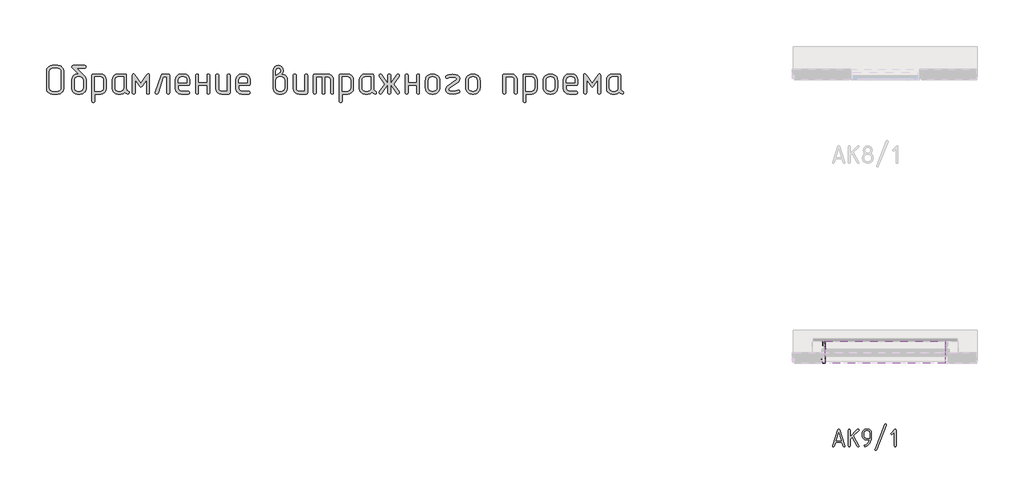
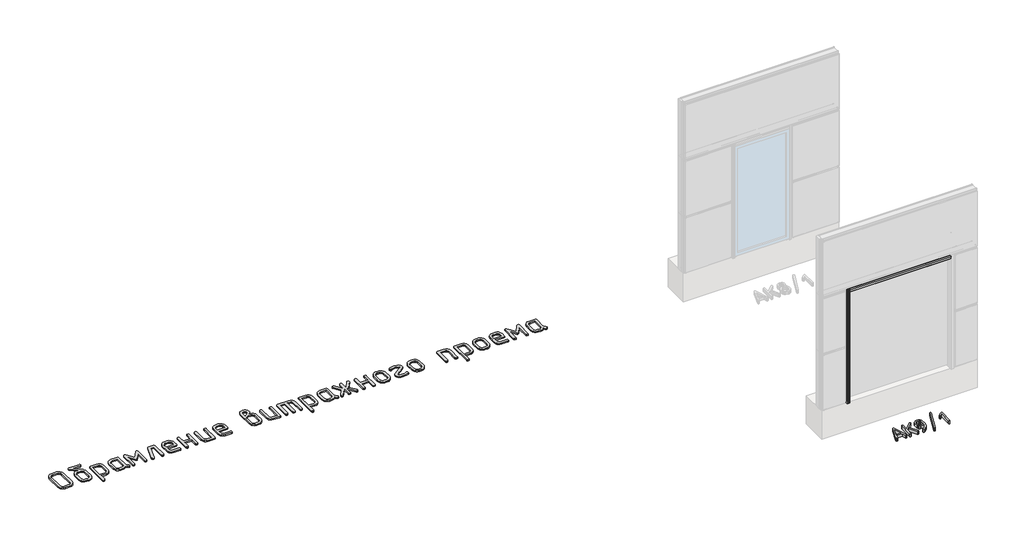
# One storey, part 5 of 37: 4 proxies.
"""IFC4 building model written with IfcOpenShell, lengths in millimetres."""

from ifc_helpers import new_model, si_unit, origin, origin_with_axes, place, context, project, spatial, polyline, outline, extrude, transform, mapped, element, save
from components import generic_models_43178f1f, generic_models_505cef03

model = new_model("IFC4")

# Units and contexts
model_context = context("Model", 3, world=origin())
ifc_project = project(units=[si_unit("LENGTHUNIT", "METRE", prefix="MILLI")], contexts=[model_context])

# Site, building, storey
site = spatial("IfcSite", under=ifc_project)
building = spatial("IfcBuilding", under=site)
storey = spatial("IfcBuildingStorey", under=building, Name="Этаж 01", Elevation=0.0)

# Proxies
placement = place(None, origin())
element("IfcBuildingElementProxy", 1, Name="250 мм ГОСТ 2.304", ObjectType="250 мм ГОСТ 2.304", at=placement, inside=storey, context=model_context, shape_type="SweptSolid", body=[
    extrude(outline(polyline([(46420.8154984, -46426.1300608), (46402.9821438, -46480.0681368), (46398.7740979, -46486.3567408), (46391.2809603, -46488.4529422), (46382.5207159, -46485.1678505), (46378.5160328, -46476.8143318), (46379.6423499, -46472.0587706), (46454.3547197, -46247.9216611), (46459.2667139, -46239.9905113), (46465.9933301, -46237.3467947), (46473.0953853, -46239.9905113), (46477.6319404, -46247.9216611), (46552.7197493, -46472.0587706), (46553.4706274, -46476.8143318), (46549.4659443, -46485.1678505), (46540.7056999, -46488.4529422), (46535.2618338, -46487.7646372), (46529.0670895, -46480.0681368), (46511.1711617, -46426.1300608), (46420.8154984, -46426.1300608)]), holes=[polyline([(46502.7863564, -46400.9756448), (46465.9933301, -46290.9720048), (46429.2003037, -46400.9756448), (46502.7863564, -46400.9756448)])]), origin_with_axes(), (0.0, 0.0, 1.0), 50.0),
    extrude(outline(polyline([(46626.4935215, -46347.4130078), (46731.0532954, -46243.5415389), (46739.8135397, -46239.5368558), (46748.7615036, -46243.385106), (46752.5784672, -46252.3017833), (46748.5737841, -46261.0620276), (46674.6122924, -46335.0235194), (46750.7638452, -46470.2441485), (46752.5784672, -46476.8143318), (46748.5737841, -46485.7310091), (46739.4381007, -46489.2038202), (46733.3528595, -46487.4674147), (46728.8632343, -46482.2581979), (46656.0280597, -46352.1685691), (46626.4935215, -46381.3276682), (46626.4935215, -46476.4388927), (46623.0207104, -46485.7310091), (46614.1040331, -46488.8283812), (46605.1560692, -46485.5432896), (46601.3391055, -46476.4388927), (46601.3391055, -46252.3017833), (46605.1560692, -46243.1973865), (46614.1040331, -46239.9122948), (46622.6765579, -46243.1973865), (46626.4935215, -46252.3017833), (46626.4935215, -46347.4130078)])), origin_with_axes(), (0.0, 0.0, 1.0), 50.0),
    extrude(outline(polyline([(46896.6844871, -46389.3370345), (46851.5066554, -46389.3370345), (46832.2810477, -46385.6921471), (46816.1528121, -46374.7574849), (46805.2181499, -46358.6292493), (46801.5732625, -46339.4036416), (46801.5732625, -46289.4702487), (46805.2181499, -46270.2446409), (46816.1528121, -46254.1164053), (46832.2810477, -46243.1817432), (46851.5066554, -46239.5368558), (46876.2856323, -46239.5368558), (46895.6989596, -46243.1817432), (46911.6394757, -46254.1164053), (46922.5741378, -46270.2446409), (46926.2190252, -46289.4702487), (46926.2190252, -46351.417691), (46922.9339336, -46386.5212416), (46913.0786587, -46418.8715726), (46901.1975773, -46440.8816866), (46885.2023096, -46460.2324407), (46865.8437339, -46476.1260269), (46843.8727282, -46487.7646372), (46838.7417279, -46488.8283812), (46830.2004896, -46484.8236981), (46826.7276785, -46475.6880146), (46828.5423005, -46469.3368375), (46834.3616057, -46464.8002824), (46852.1323871, -46455.4768794), (46867.525388, -46442.8996714), (46880.1808124, -46427.3345944), (46889.7388648, -46409.0475843), (46893.430682, -46399.3800289), (46896.6844871, -46389.3370345)]), holes=[polyline([(46900.6891702, -46363.838466), (46900.8768897, -46359.6460634), (46901.2523288, -46350.0097946), (46901.4400483, -46328.8287751), (46901.4400483, -46289.4702487), (46899.6176046, -46279.763585), (46894.1502735, -46271.793327), (46886.0392258, -46266.4667856), (46876.2856323, -46264.6912717), (46851.5066554, -46264.6912717), (46841.7999918, -46266.4667856), (46833.8297337, -46271.793327), (46828.5031923, -46279.763585), (46826.7276785, -46289.4702487), (46826.7276785, -46339.4036416), (46828.5031923, -46349.1103052), (46833.8297337, -46357.0805632), (46841.7999918, -46362.4071047), (46851.5066554, -46364.1826185), (46900.6891702, -46363.838466)])]), origin_with_axes(), (0.0, 0.0, 1.0), 50.0),
    extrude(outline(polyline([(47139.2181097, -46181.9695356), (47002.1828585, -46530.7524078), (46997.4585839, -46536.571713), (46990.9196872, -46538.7617741), (46981.7840038, -46535.2889629), (46977.7793206, -46526.3722856), (46978.5301987, -46521.6167244), (47115.5654499, -46172.8964254), (47120.2897245, -46167.014547), (47126.8286212, -46164.824486), (47135.9643046, -46168.4850166), (47139.9689878, -46177.2139744), (47139.2181097, -46181.9695356)])), origin_with_axes(), (0.0, 0.0, 1.0), 50.0),
    extrude(outline(polyline([(47276.7539463, -46476.4388927), (47273.2811351, -46485.7310091), (47264.3644578, -46488.8283812), (47255.791933, -46485.5432896), (47251.9749693, -46476.4388927), (47251.9749693, -46282.2117605), (47223.1913093, -46310.6199815), (47214.806504, -46314.6246646), (47205.8585401, -46310.807701), (47202.0415764, -46301.8597371), (47206.0462596, -46293.1620659), (47255.6042134, -46243.5415389), (47266.5545189, -46238.0976728), (47273.8442937, -46241.7582035), (47276.7539463, -46252.3017833), (47276.7539463, -46476.4388927)])), origin_with_axes(), (0.0, 0.0, 1.0), 50.0),
])
element("IfcBuildingElementProxy", 2, Name="400 мм ГОСТ 2.304", ObjectType="400 мм ГОСТ 2.304", at=placement, inside=storey, context=model_context, shape_type="SweptSolid", body=[
    extrude(outline(polyline([(35529.9614469, -41429.4392879), (35524.0713089, -41460.9629021), (35516.7086364, -41474.7339437), (35506.4008948, -41487.1778083), (35480.7926982, -41504.3931902), (35449.8757935, -41510.1316508), (35369.1834306, -41510.1316508), (35338.1148485, -41504.3931902), (35312.0516197, -41487.1778083), (35301.7438782, -41474.7339437), (35294.3812057, -41460.9629021), (35288.4910677, -41429.4392879), (35288.4910677, -41187.9689087), (35294.3812057, -41156.9003266), (35312.0516197, -41130.8370978), (35338.1148485, -41113.1666838), (35369.1834306, -41107.2765458), (35449.8757935, -41107.2765458), (35480.7926982, -41113.1666838), (35494.260385, -41120.5293563), (35506.4008948, -41130.8370978), (35524.0713089, -41156.9003266), (35529.9614469, -41187.9689087), (35529.9614469, -41429.4392879)]), holes=[polyline([(35489.9186202, -41429.4392879), (35489.9186202, -41187.9689087), (35486.9735512, -41172.2829403), (35478.1383442, -41159.4030033), (35465.1825685, -41150.7953123), (35449.8757935, -41147.926082), (35369.1834306, -41147.926082), (35353.4974622, -41150.7953123), (35340.6175252, -41159.4030033), (35332.0098342, -41172.2829403), (35329.1406039, -41187.9689087), (35329.1406039, -41429.4392879), (35332.0098342, -41445.201095), (35340.6175252, -41458.3085481), (35353.4974622, -41467.1437551), (35369.1834306, -41470.0888241), (35449.8757935, -41470.0888241), (35465.1825685, -41467.1437551), (35478.1383442, -41458.3085481), (35486.9735512, -41445.201095), (35489.9186202, -41429.4392879)])]), origin_with_axes(), (0.0, 0.0, 1.0), 20.0),
    extrude(outline(polyline([(35740.9952331, -41228.6184449), (35650.898873, -41142.0612235), (35645.1351328, -41134.4015161), (35643.2138861, -41125.5789489), (35648.5225942, -41112.5852538), (35655.3101567, -41108.6037228), (35665.0554279, -41107.2765458), (35825.8334443, -41107.2765458), (35834.5928126, -41108.7554002), (35840.8495043, -41113.1919633), (35845.8548576, -41127.9046686), (35840.5461495, -41141.7578688), (35834.2136192, -41146.3840287), (35825.8334443, -41147.926082), (35715.1089613, -41147.926082), (35821.687596, -41249.8532772), (35826.4401538, -41256.3248452), (35841.0011817, -41280.593225), (35845.8548576, -41308.7040983), (35845.8548576, -41429.4392879), (35839.9647196, -41460.9629021), (35832.6020471, -41474.7339437), (35822.2943055, -41487.1778083), (35796.5344315, -41504.3931902), (35765.1624947, -41510.1316508), (35725.119668, -41510.1316508), (35694.0510859, -41504.3931902), (35667.9878572, -41487.1778083), (35657.6801156, -41474.7339437), (35650.3174431, -41460.9629021), (35644.4273051, -41429.4392879), (35644.4273051, -41308.7040983), (35650.3174431, -41278.0905483), (35667.9878572, -41252.178997), (35694.0510859, -41234.5085829), (35725.119668, -41228.6184449), (35740.9952331, -41228.6184449)]), holes=[polyline([(35805.8120309, -41429.4392879), (35805.8120309, -41308.7040983), (35802.8669619, -41293.3973233), (35794.0317549, -41280.4415476), (35780.9243018, -41271.6063406), (35765.1624947, -41268.6612716), (35725.119668, -41268.6612716), (35709.4336996, -41271.6063406), (35696.5537626, -41280.4415476), (35687.9460716, -41293.3973233), (35685.0768413, -41308.7040983), (35685.0768413, -41429.4392879), (35687.9460716, -41445.201095), (35696.5537626, -41458.3085481), (35709.4336996, -41467.1437551), (35725.119668, -41470.0888241), (35765.1624947, -41470.0888241), (35780.9243018, -41467.1437551), (35794.0317549, -41458.3085481), (35802.8669619, -41445.201095), (35805.8120309, -41429.4392879)])]), origin_with_axes(), (0.0, 0.0, 1.0), 20.0),
    extrude(outline(polyline([(35969.8258312, -41510.1316508), (35969.8258312, -41610.8454271), (35968.4228155, -41619.6047955), (35964.2137684, -41625.8614871), (35949.8044179, -41630.8668405), (35935.3445082, -41625.5581324), (35930.7183483, -41619.225602), (35929.176295, -41610.8454271), (35929.176295, -41248.6398582), (35930.4655527, -41239.8804899), (35934.3333257, -41233.6237982), (35949.8044179, -41228.6184449), (36049.9114846, -41228.6184449), (36081.2834215, -41234.3569055), (36107.0432955, -41251.5722875), (36124.7137095, -41277.6355162), (36130.6038476, -41308.7040983), (36130.6038476, -41429.4392879), (36124.7137095, -41460.9629021), (36117.351037, -41474.7339437), (36107.0432955, -41487.1778083), (36081.2834215, -41504.3931902), (36049.9114846, -41510.1316508), (35969.8258312, -41510.1316508)]), holes=[polyline([(35969.8258312, -41470.0888241), (36049.9114846, -41470.0888241), (36065.6732918, -41467.1437551), (36078.7807448, -41458.3085481), (36087.6159518, -41445.201095), (36090.5610209, -41429.4392879), (36090.5610209, -41308.7040983), (36087.6159518, -41293.3973233), (36078.7807448, -41280.4415476), (36065.6732918, -41271.6063406), (36049.9114846, -41268.6612716), (35969.8258312, -41268.6612716), (35969.8258312, -41470.0888241)])]), origin_with_axes(), (0.0, 0.0, 1.0), 20.0),
    extrude(outline(polyline([(36394.7247146, -41483.6386695), (36382.7927612, -41494.2813653), (36368.2317333, -41502.7500186), (36351.9011361, -41508.2862428), (36334.6604746, -41510.1316508), (36294.6176479, -41510.1316508), (36263.5490658, -41504.3931902), (36237.485837, -41487.1778083), (36227.1780955, -41474.7339437), (36219.815423, -41460.9629021), (36213.925285, -41429.4392879), (36213.925285, -41308.7040983), (36219.815423, -41278.0905483), (36237.485837, -41252.178997), (36263.5490658, -41234.5085829), (36294.6176479, -41228.6184449), (36395.3314241, -41228.6184449), (36410.3474842, -41233.6237982), (36415.3528375, -41248.6398582), (36415.3528375, -41429.4392879), (36417.2614445, -41442.4709023), (36422.9872653, -41454.4660546), (36431.8224723, -41464.5399602), (36443.0592378, -41471.8078344), (36452.7665897, -41478.9113914), (36456.0023737, -41489.503528), (36450.3903109, -41504.2667924), (36443.9819418, -41509.1204684), (36435.9809603, -41510.7383603), (36427.6892639, -41508.4126406), (36409.1340652, -41497.7699449), (36394.7247146, -41483.6386695)]), holes=[polyline([(36375.3100108, -41429.4392879), (36375.3100108, -41268.6612716), (36294.6176479, -41268.6612716), (36278.9316795, -41271.6063406), (36266.0517425, -41280.4415476), (36257.4440515, -41293.3973233), (36254.5748212, -41308.7040983), (36254.5748212, -41429.4392879), (36257.4440515, -41445.201095), (36266.0517425, -41458.3085481), (36278.9316795, -41467.1437551), (36294.6176479, -41470.0888241), (36334.6604746, -41470.0888241), (36350.4222817, -41467.1437551), (36363.5297347, -41458.3085481), (36372.3649418, -41445.201095), (36375.3100108, -41429.4392879)])]), origin_with_axes(), (0.0, 0.0, 1.0), 20.0),
    extrude(outline(polyline([(36740.1446541, -41490.1102375), (36738.6657998, -41498.4904124), (36734.2292366, -41504.8229428), (36720.1232408, -41510.1316508), (36705.6633311, -41505.1262975), (36701.4922034, -41498.8696058), (36700.1018274, -41490.1102375), (36700.1018274, -41311.029818), (36635.8917392, -41401.2272964), (36627.6253223, -41409.1145198), (36619.4094645, -41411.7435943), (36610.890252, -41409.1145198), (36602.9271899, -41401.2272964), (36539.3238111, -41311.029818), (36539.3238111, -41490.1102375), (36537.7817578, -41498.4904124), (36533.1555979, -41504.8229428), (36519.3023977, -41510.1316508), (36504.2863377, -41505.1262975), (36500.0772906, -41498.8696058), (36498.6742749, -41490.1102375), (36498.6742749, -41248.6398582), (36503.6796282, -41231.2475194), (36509.35489, -41226.6213595), (36516.3699685, -41225.0793062), (36526.7851482, -41228.037015), (36535.7846724, -41236.9101413), (36619.4094645, -41354.6117835), (36703.6409662, -41236.9101413), (36712.7416086, -41228.037015), (36722.4489605, -41225.0793062), (36729.4640391, -41226.6213595), (36735.1393008, -41231.2475194), (36740.1446541, -41248.6398582), (36740.1446541, -41490.1102375)])), origin_with_axes(), (0.0, 0.0, 1.0), 20.0),
    extrude(outline(polyline([(37023.6802251, -41490.1102375), (37022.2772094, -41498.8696058), (37018.0681623, -41505.1262975), (37003.6588117, -41510.1316508), (36989.5022568, -41504.8229428), (36985.103613, -41498.4904124), (36983.6373984, -41490.1102375), (36983.6373984, -41268.6612716), (36937.1230037, -41268.6612716), (36861.6887898, -41496.5818054), (36854.3577167, -41506.5925121), (36843.4875049, -41510.1316508), (36829.0275953, -41504.8229428), (36824.4014353, -41498.6420898), (36822.859382, -41490.716947), (36824.072801, -41483.6386695), (36903.551745, -41242.1682903), (36910.7311407, -41232.0059062), (36922.9664488, -41228.6184449), (37003.6588117, -41228.6184449), (37018.6748718, -41233.6237982), (37023.6802251, -41248.6398582), (37023.6802251, -41490.1102375)])), origin_with_axes(), (0.0, 0.0, 1.0), 20.0),
    extrude(outline(polyline([(37147.6511987, -41389.3964612), (37147.6511987, -41429.4392879), (37150.520429, -41445.201095), (37159.12812, -41458.3085481), (37172.008057, -41467.1437551), (37187.6940254, -41470.0888241), (37288.4078017, -41470.0888241), (37297.16717, -41471.4918398), (37303.4238617, -41475.700887), (37308.429215, -41490.1102375), (37303.1205069, -41503.9634376), (37296.7879766, -41508.5895975), (37288.4078017, -41510.1316508), (37187.6940254, -41510.1316508), (37156.6254433, -41504.3931902), (37130.5622146, -41487.1778083), (37120.254473, -41474.7339437), (37112.8918005, -41460.9629021), (37107.0016625, -41429.4392879), (37107.0016625, -41308.7040983), (37112.8918005, -41277.7871936), (37120.254473, -41264.3195068), (37130.5622146, -41252.178997), (37156.6254433, -41234.5085829), (37187.6940254, -41228.6184449), (37227.7368521, -41228.6184449), (37259.1087889, -41234.3569055), (37284.868663, -41251.5722875), (37302.539077, -41277.6355162), (37308.429215, -41308.7040983), (37308.429215, -41369.3750479), (37303.4238617, -41384.3911079), (37288.4078017, -41389.3964612), (37147.6511987, -41389.3964612)]), holes=[polyline([(37147.6511987, -41349.3536345), (37268.3863883, -41349.3536345), (37268.3863883, -41308.7040983), (37265.4413193, -41293.3973233), (37256.6061123, -41280.4415476), (37243.4986592, -41271.6063406), (37227.7368521, -41268.6612716), (37187.6940254, -41268.6612716), (37172.008057, -41271.6063406), (37159.12812, -41280.4415476), (37150.520429, -41293.3973233), (37147.6511987, -41308.7040983), (37147.6511987, -41349.3536345)])]), origin_with_axes(), (0.0, 0.0, 1.0), 20.0),
    extrude(outline(polyline([(37553.1353783, -41349.3536345), (37553.1353783, -41248.6398582), (37554.6015929, -41240.2596833), (37559.0002367, -41233.927153), (37573.1567916, -41228.6184449), (37587.2627874, -41233.6237982), (37591.6993506, -41239.8804899), (37593.178205, -41248.6398582), (37593.178205, -41490.1102375), (37591.7751893, -41498.8696058), (37587.5661421, -41505.1262975), (37573.1567916, -41510.1316508), (37559.0002367, -41504.8229428), (37554.6015929, -41498.4904124), (37553.1353783, -41490.1102375), (37553.1353783, -41389.3964612), (37432.4001886, -41389.3964612), (37432.4001886, -41490.1102375), (37430.9971729, -41498.8696058), (37426.7881258, -41505.1262975), (37412.3787753, -41510.1316508), (37397.9188656, -41504.8229428), (37393.2927057, -41498.4904124), (37391.7506524, -41490.1102375), (37391.7506524, -41248.6398582), (37393.2295068, -41240.2596833), (37397.66607, -41233.927153), (37412.3787753, -41228.6184449), (37426.2319754, -41233.6237982), (37430.8581353, -41239.8804899), (37432.4001886, -41248.6398582), (37432.4001886, -41349.3536345), (37553.1353783, -41349.3536345)])), origin_with_axes(), (0.0, 0.0, 1.0), 20.0),
    extrude(outline(polyline([(37877.9271949, -41490.1102375), (37872.9218416, -41505.1262975), (37857.9057815, -41510.1316508), (37757.1920053, -41510.1316508), (37726.1234232, -41504.3931902), (37700.0601944, -41487.1778083), (37689.7524529, -41474.7339437), (37682.3897804, -41460.9629021), (37676.4996424, -41429.4392879), (37676.4996424, -41248.6398582), (37677.9784968, -41240.2596833), (37682.4150599, -41233.927153), (37697.1277652, -41228.6184449), (37710.9809654, -41233.6237982), (37715.6071253, -41239.8804899), (37717.1491786, -41248.6398582), (37717.1491786, -41429.4392879), (37720.0184089, -41445.201095), (37728.6260999, -41458.3085481), (37741.5060369, -41467.1437551), (37757.1920053, -41470.0888241), (37837.8843682, -41470.0888241), (37837.8843682, -41248.6398582), (37839.3505828, -41240.2596833), (37843.7492267, -41233.927153), (37857.9057815, -41228.6184449), (37872.0117773, -41233.6237982), (37876.4483405, -41239.8804899), (37877.9271949, -41248.6398582), (37877.9271949, -41490.1102375)])), origin_with_axes(), (0.0, 0.0, 1.0), 20.0),
    extrude(outline(polyline([(38001.8981685, -41389.3964612), (38001.8981685, -41429.4392879), (38004.7673988, -41445.201095), (38013.3750898, -41458.3085481), (38026.2550268, -41467.1437551), (38041.9409952, -41470.0888241), (38142.6547715, -41470.0888241), (38151.4141398, -41471.4918398), (38157.6708315, -41475.700887), (38162.6761848, -41490.1102375), (38157.3674768, -41503.9634376), (38151.0349464, -41508.5895975), (38142.6547715, -41510.1316508), (38041.9409952, -41510.1316508), (38010.8724131, -41504.3931902), (37984.8091844, -41487.1778083), (37974.5014428, -41474.7339437), (37967.1387703, -41460.9629021), (37961.2486323, -41429.4392879), (37961.2486323, -41308.7040983), (37967.1387703, -41277.7871936), (37974.5014428, -41264.3195068), (37984.8091844, -41252.178997), (38010.8724131, -41234.5085829), (38041.9409952, -41228.6184449), (38081.9838219, -41228.6184449), (38113.3557588, -41234.3569055), (38139.1156328, -41251.5722875), (38156.7860468, -41277.6355162), (38162.6761848, -41308.7040983), (38162.6761848, -41369.3750479), (38157.6708315, -41384.3911079), (38142.6547715, -41389.3964612), (38001.8981685, -41389.3964612)]), holes=[polyline([(38001.8981685, -41349.3536345), (38122.6333581, -41349.3536345), (38122.6333581, -41308.7040983), (38119.6882891, -41293.3973233), (38110.8530821, -41280.4415476), (38097.745629, -41271.6063406), (38081.9838219, -41268.6612716), (38041.9409952, -41268.6612716), (38026.2550268, -41271.6063406), (38013.3750898, -41280.4415476), (38004.7673988, -41293.3973233), (38001.8981685, -41308.7040983), (38001.8981685, -41349.3536345)])]), origin_with_axes(), (0.0, 0.0, 1.0), 20.0),
    extrude(outline(polyline([(38606.1808261, -41229.8318639), (38640.5104718, -41235.5703245), (38654.6796664, -41242.7434003), (38666.8517757, -41252.7857065), (38681.8678357, -41277.0793658), (38686.873189, -41308.7040983), (38686.873189, -41429.4392879), (38680.983051, -41460.9629021), (38673.6203785, -41474.7339437), (38663.312637, -41487.1778083), (38637.552763, -41504.3931902), (38606.1808261, -41510.1316508), (38566.1379994, -41510.1316508), (38535.0694173, -41504.3931902), (38509.0061886, -41487.1778083), (38498.698447, -41474.7339437), (38491.3357745, -41460.9629021), (38485.4456365, -41429.4392879), (38485.4456365, -41180.38504), (38491.1840971, -41149.5945331), (38498.357173, -41136.7398756), (38508.3994791, -41125.5789489), (38530.9235691, -41111.8521465), (38558.4530125, -41107.2765458), (38585.5274237, -41111.8521465), (38607.8998364, -41125.5789489), (38617.7209463, -41136.7019563), (38624.7360249, -41149.4428557), (38630.3480877, -41179.7783305), (38628.945072, -41196.2985245), (38624.7360249, -41209.4565366), (38617.2911938, -41220.2888291), (38606.1808261, -41229.8318639)]), holes=[polyline([(38646.8303623, -41429.4392879), (38646.8303623, -41308.7040983), (38643.8852933, -41293.3973233), (38635.0500863, -41280.4415476), (38621.9426332, -41271.6063406), (38606.1808261, -41268.6612716), (38566.1379994, -41268.6612716), (38550.452031, -41271.6063406), (38537.572094, -41280.4415476), (38528.964403, -41293.3973233), (38526.0951727, -41308.7040983), (38526.0951727, -41429.4392879), (38528.964403, -41445.201095), (38537.572094, -41458.3085481), (38550.452031, -41467.1437551), (38566.1379994, -41470.0888241), (38606.1808261, -41470.0888241), (38621.9426332, -41467.1437551), (38635.0500863, -41458.3085481), (38643.8852933, -41445.201095), (38646.8303623, -41429.4392879)]), polyline([(38526.0951727, -41242.1682903), (38535.4991699, -41236.6067866), (38542.5774473, -41231.5508741), (38556.1272927, -41221.8435222), (38566.1379994, -41214.46189), (38582.620274, -41199.7997438), (38588.3840143, -41190.2440693), (38590.305261, -41180.38504), (38587.878423, -41166.7972752), (38580.5979091, -41156.7739288), (38570.0563316, -41150.5930758), (38557.846303, -41148.5327915), (38545.7879518, -41150.5930758), (38535.4991699, -41156.7739288), (38528.446172, -41166.7972752), (38526.0951727, -41180.38504), (38526.0951727, -41242.1682903)])]), origin_with_axes(), (0.0, 0.0, 1.0), 20.0),
    extrude(outline(polyline([(38971.622179, -41490.1102375), (38966.6168256, -41505.1262975), (38951.6007656, -41510.1316508), (38850.8869894, -41510.1316508), (38819.8184073, -41504.3931902), (38793.7551785, -41487.1778083), (38783.447437, -41474.7339437), (38776.0847645, -41460.9629021), (38770.1946264, -41429.4392879), (38770.1946264, -41248.6398582), (38771.6734808, -41240.2596833), (38776.110044, -41233.927153), (38790.8227493, -41228.6184449), (38804.6759494, -41233.6237982), (38809.3021093, -41239.8804899), (38810.8441626, -41248.6398582), (38810.8441626, -41429.4392879), (38813.713393, -41445.201095), (38822.3210839, -41458.3085481), (38835.2010209, -41467.1437551), (38850.8869894, -41470.0888241), (38931.5793523, -41470.0888241), (38931.5793523, -41248.6398582), (38933.0455669, -41240.2596833), (38937.4442107, -41233.927153), (38951.6007656, -41228.6184449), (38965.7067614, -41233.6237982), (38970.1433246, -41239.8804899), (38971.622179, -41248.6398582), (38971.622179, -41490.1102375)])), origin_with_axes(), (0.0, 0.0, 1.0), 20.0),
    extrude(outline(polyline([(39175.678806, -41268.6612716), (39095.5931526, -41268.6612716), (39095.5931526, -41490.1102375), (39094.1901369, -41498.8696058), (39089.9810897, -41505.1262975), (39075.5717392, -41510.1316508), (39061.1118296, -41504.8229428), (39056.4856697, -41498.4904124), (39054.9436164, -41490.1102375), (39054.9436164, -41248.6398582), (39056.2328741, -41239.8804899), (39060.1006471, -41233.6237982), (39075.5717392, -41228.6184449), (39256.3711689, -41228.6184449), (39287.7431058, -41234.3569055), (39313.5029798, -41251.5722875), (39331.1733938, -41277.6355162), (39337.0635318, -41308.7040983), (39337.0635318, -41490.1102375), (39335.6605161, -41498.8696058), (39331.451469, -41505.1262975), (39317.0421185, -41510.1316508), (39302.5822088, -41504.8229428), (39297.9560489, -41498.4904124), (39296.4139956, -41490.1102375), (39296.4139956, -41308.7040983), (39293.5447653, -41293.3973233), (39284.9370743, -41280.4415476), (39272.0571373, -41271.6063406), (39256.3711689, -41268.6612716), (39216.3283422, -41268.6612716), (39216.3283422, -41490.1102375), (39214.9253265, -41498.8696058), (39210.7162794, -41505.1262975), (39196.3069289, -41510.1316508), (39181.8470192, -41504.8229428), (39177.2208593, -41498.4904124), (39175.678806, -41490.1102375), (39175.678806, -41268.6612716)])), origin_with_axes(), (0.0, 0.0, 1.0), 20.0),
    extrude(outline(polyline([(39458.000958, -41510.1316508), (39458.000958, -41610.8454271), (39456.5979423, -41619.6047955), (39452.3888951, -41625.8614871), (39437.9795446, -41630.8668405), (39423.519635, -41625.5581324), (39418.8934751, -41619.225602), (39417.3514218, -41610.8454271), (39417.3514218, -41248.6398582), (39418.6406794, -41239.8804899), (39422.5084525, -41233.6237982), (39437.9795446, -41228.6184449), (39538.0866114, -41228.6184449), (39569.4585482, -41234.3569055), (39595.2184222, -41251.5722875), (39612.8888363, -41277.6355162), (39618.7789743, -41308.7040983), (39618.7789743, -41429.4392879), (39612.8888363, -41460.9629021), (39605.5261637, -41474.7339437), (39595.2184222, -41487.1778083), (39569.4585482, -41504.3931902), (39538.0866114, -41510.1316508), (39458.000958, -41510.1316508)]), holes=[polyline([(39458.000958, -41470.0888241), (39538.0866114, -41470.0888241), (39553.8484185, -41467.1437551), (39566.9558715, -41458.3085481), (39575.7910786, -41445.201095), (39578.7361476, -41429.4392879), (39578.7361476, -41308.7040983), (39575.7910786, -41293.3973233), (39566.9558715, -41280.4415476), (39553.8484185, -41271.6063406), (39538.0866114, -41268.6612716), (39458.000958, -41268.6612716), (39458.000958, -41470.0888241)])]), origin_with_axes(), (0.0, 0.0, 1.0), 20.0),
    extrude(outline(polyline([(39882.8998414, -41483.6386695), (39870.967888, -41494.2813653), (39856.4068601, -41502.7500186), (39840.0762628, -41508.2862428), (39822.8356013, -41510.1316508), (39782.7927746, -41510.1316508), (39751.7241925, -41504.3931902), (39725.6609638, -41487.1778083), (39715.3532222, -41474.7339437), (39707.9905497, -41460.9629021), (39702.1004117, -41429.4392879), (39702.1004117, -41308.7040983), (39707.9905497, -41278.0905483), (39725.6609638, -41252.178997), (39751.7241925, -41234.5085829), (39782.7927746, -41228.6184449), (39883.5065509, -41228.6184449), (39898.5226109, -41233.6237982), (39903.5279642, -41248.6398582), (39903.5279642, -41429.4392879), (39905.4365712, -41442.4709023), (39911.1623921, -41454.4660546), (39919.9975991, -41464.5399602), (39931.2343645, -41471.8078344), (39940.9417165, -41478.9113914), (39944.1775004, -41489.503528), (39938.5654376, -41504.2667924), (39932.1570686, -41509.1204684), (39924.1560871, -41510.7383603), (39915.8643906, -41508.4126406), (39897.3091919, -41497.7699449), (39882.8998414, -41483.6386695)]), holes=[polyline([(39863.4851375, -41429.4392879), (39863.4851375, -41268.6612716), (39782.7927746, -41268.6612716), (39767.1068062, -41271.6063406), (39754.2268692, -41280.4415476), (39745.6191782, -41293.3973233), (39742.7499479, -41308.7040983), (39742.7499479, -41429.4392879), (39745.6191782, -41445.201095), (39754.2268692, -41458.3085481), (39767.1068062, -41467.1437551), (39782.7927746, -41470.0888241), (39822.8356013, -41470.0888241), (39838.5974084, -41467.1437551), (39851.7048615, -41458.3085481), (39860.5400685, -41445.201095), (39863.4851375, -41429.4392879)])]), origin_with_axes(), (0.0, 0.0, 1.0), 20.0),
    extrude(outline(polyline([(40153.4922764, -41349.3536345), (40227.7130714, -41237.4157326), (40235.069424, -41230.3627347), (40244.195346, -41228.0117354), (40258.9586104, -41233.927153), (40263.8122864, -41240.5630381), (40265.4301784, -41248.6398582), (40261.8910396, -41259.8639839), (40188.8836637, -41369.3750479), (40261.8910396, -41478.8861118), (40265.4301784, -41490.716947), (40263.8122864, -41498.0227405), (40258.9586104, -41504.5701471), (40251.880333, -41509.196307), (40243.5886365, -41510.7383603), (40234.6143919, -41508.387361), (40227.7130714, -41501.3343632), (40153.4922764, -41389.3964612), (40144.0882792, -41389.3964612), (40144.0882792, -41490.1102375), (40142.6852635, -41498.8696058), (40138.4762164, -41505.1262975), (40124.0668659, -41510.1316508), (40109.910311, -41504.8229428), (40105.5116671, -41498.4904124), (40104.0454525, -41490.1102375), (40104.0454525, -41389.3964612), (40094.6414553, -41389.3964612), (40019.8139509, -41501.3343632), (40012.760953, -41508.387361), (40003.3316763, -41510.7383603), (39989.1751214, -41504.5701471), (39984.3214454, -41497.8710631), (39982.7035534, -41490.1102375), (39986.2426921, -41478.8861118), (40059.2500681, -41369.3750479), (39986.2426921, -41259.8639839), (39982.7035534, -41248.0331487), (39984.3214454, -41240.4113607), (39989.1751214, -41233.927153), (40003.9383858, -41228.0117354), (40012.9126304, -41230.3627347), (40019.8139509, -41237.4157326), (40094.6414553, -41349.3536345), (40104.0454525, -41349.3536345), (40104.0454525, -41248.6398582), (40105.4484682, -41240.2596833), (40109.6575154, -41233.927153), (40124.0668659, -41228.6184449), (40137.920066, -41233.6237982), (40142.5462259, -41239.8804899), (40144.0882792, -41248.6398582), (40144.0882792, -41349.3536345), (40153.4922764, -41349.3536345)])), origin_with_axes(), (0.0, 0.0, 1.0), 20.0),
    extrude(outline(polyline([(40510.6419328, -41349.3536345), (40510.6419328, -41248.6398582), (40512.1081474, -41240.2596833), (40516.5067913, -41233.927153), (40530.6633462, -41228.6184449), (40544.769342, -41233.6237982), (40549.2059051, -41239.8804899), (40550.6847595, -41248.6398582), (40550.6847595, -41490.1102375), (40549.2817438, -41498.8696058), (40545.0726967, -41505.1262975), (40530.6633462, -41510.1316508), (40516.5067913, -41504.8229428), (40512.1081474, -41498.4904124), (40510.6419328, -41490.1102375), (40510.6419328, -41389.3964612), (40389.9067432, -41389.3964612), (40389.9067432, -41490.1102375), (40388.5037275, -41498.8696058), (40384.2946804, -41505.1262975), (40369.8853299, -41510.1316508), (40355.4254202, -41504.8229428), (40350.7992603, -41498.4904124), (40349.257207, -41490.1102375), (40349.257207, -41248.6398582), (40350.7360614, -41240.2596833), (40355.1726246, -41233.927153), (40369.8853299, -41228.6184449), (40383.73853, -41233.6237982), (40388.3646899, -41239.8804899), (40389.9067432, -41248.6398582), (40389.9067432, -41349.3536345), (40510.6419328, -41349.3536345)])), origin_with_axes(), (0.0, 0.0, 1.0), 20.0),
    extrude(outline(polyline([(40835.4337495, -41421.754301), (40833.8158575, -41439.6143118), (40828.9621815, -41456.0839466), (40820.8727216, -41471.1632055), (40809.5474777, -41484.8520885), (40796.1240301, -41495.911897), (40781.2343679, -41503.8117603), (40764.8784911, -41508.5516782), (40747.0563996, -41510.1316508), (40722.889138, -41510.1316508), (40705.0733665, -41508.5516782), (40688.6353311, -41503.8117603), (40673.5750319, -41495.911897), (40659.8924688, -41484.8520885), (40648.5672248, -41471.1632055), (40640.4777649, -41456.0839466), (40635.6240889, -41439.6143118), (40634.0061969, -41421.754301), (40634.0061969, -41316.9957947), (40635.6240889, -41299.4012194), (40640.4777649, -41283.1211812), (40648.5672248, -41268.1556803), (40659.8924688, -41254.5047167), (40673.9921446, -41243.1794728), (40689.1914815, -41235.0900128), (40705.4904793, -41230.2363369), (40722.889138, -41228.6184449), (40747.0563996, -41228.6184449), (40764.647815, -41230.2394968), (40780.9183733, -41235.1026526), (40795.8680745, -41243.2079123), (40809.4969185, -41254.5552758), (40820.8442821, -41268.1841199), (40828.9495417, -41283.133821), (40833.8126975, -41299.4043793), (40835.4337495, -41316.9957947), (40835.4337495, -41421.754301)]), holes=[polyline([(40795.3909228, -41421.754301), (40795.3909228, -41316.9957947), (40791.851784, -41298.440596), (40781.2343679, -41282.8178265), (40765.6115984, -41272.2004103), (40747.0563996, -41268.6612716), (40722.889138, -41268.6612716), (40704.3465791, -41272.2004103), (40688.7617289, -41282.8178265), (40678.1822321, -41298.440596), (40674.6557331, -41316.9957947), (40674.6557331, -41421.754301), (40678.1822321, -41440.3094997), (40688.7617289, -41455.9322692), (40704.3465791, -41466.5496854), (40722.889138, -41470.0888241), (40747.0563996, -41470.0888241), (40765.6115984, -41466.5496854), (40781.2343679, -41455.9322692), (40791.851784, -41440.3094997), (40795.3909228, -41421.754301)])]), origin_with_axes(), (0.0, 0.0, 1.0), 20.0),
    extrude(outline(polyline([(41109.5653232, -41491.8292477), (41069.7752922, -41506.0363617), (41024.2215209, -41510.7383603), (40996.2117658, -41509.2721457), (40972.347859, -41505.3790931), (40950.455758, -41498.4651328), (40934.3273973, -41484.8015294), (40924.3925293, -41466.4106478), (40921.0809066, -41445.3148531), (40926.3896147, -41419.4285813), (40933.1771772, -41407.8252621), (40942.9224485, -41397.6881577), (41071.2415068, -41309.3108078), (41077.814193, -41296.9743814), (41072.6571623, -41284.2840411), (41057.1860701, -41275.739549), (41036.0776356, -41271.3409052), (41011.7839762, -41269.8746906), (40976.5948255, -41273.5402271), (40951.1130266, -41284.5368367), (40938.7766002, -41289.2893944), (40931.1548122, -41287.7473411), (40924.6706045, -41283.1211812), (40920.2340413, -41276.2704199), (40918.7551869, -41268.0545621), (40920.828111, -41259.8387043), (40927.0468833, -41252.7857065), (40943.7061149, -41243.3564297), (40965.5729363, -41236.3034318), (41015.3231149, -41230.4385734), (41022.4013924, -41230.4385734), (41061.2813592, -41235.140572), (41091.8696296, -41248.3870626), (41103.3465509, -41257.8036996), (41111.891043, -41268.9646263), (41117.1997511, -41281.5285688), (41118.9693204, -41295.7609624), (41113.2308598, -41319.5995897), (41096.0154778, -41340.5563468), (40967.5953013, -41429.4392879), (40962.3624319, -41436.5175654), (40960.6181421, -41444.8092618), (40965.6234954, -41458.6119028), (40978.8194269, -41466.5496854), (41000.9137644, -41468.9259643), (41024.7271121, -41470.0888241), (41060.371295, -41467.1563949), (41090.7573289, -41455.9322692), (41100.7680356, -41453.6065495), (41108.769017, -41455.1486028), (41115.1773861, -41459.7747627), (41120.7894489, -41474.8413818), (41117.9834175, -41484.649852), (41109.5653232, -41491.8292477)])), origin_with_axes(), (0.0, 0.0, 1.0), 20.0),
    extrude(outline(polyline([(41404.9317294, -41421.754301), (41403.3138374, -41439.6143118), (41398.4601614, -41456.0839466), (41390.3707015, -41471.1632055), (41379.0454575, -41484.8520885), (41365.62201, -41495.911897), (41350.7323477, -41503.8117603), (41334.3764709, -41508.5516782), (41316.5543795, -41510.1316508), (41292.3871179, -41510.1316508), (41274.5713464, -41508.5516782), (41258.133311, -41503.8117603), (41243.0730117, -41495.911897), (41229.3904486, -41484.8520885), (41218.0652047, -41471.1632055), (41209.9757448, -41456.0839466), (41205.1220688, -41439.6143118), (41203.5041768, -41421.754301), (41203.5041768, -41316.9957947), (41205.1220688, -41299.4012194), (41209.9757448, -41283.1211812), (41218.0652047, -41268.1556803), (41229.3904486, -41254.5047167), (41243.4901245, -41243.1794728), (41258.6894614, -41235.0900128), (41274.9884592, -41230.2363369), (41292.3871179, -41228.6184449), (41316.5543795, -41228.6184449), (41334.1457949, -41230.2394968), (41350.4163532, -41235.1026526), (41365.3660544, -41243.2079123), (41378.9948984, -41254.5552758), (41390.342262, -41268.1841199), (41398.4475216, -41283.133821), (41403.3106774, -41299.4043793), (41404.9317294, -41316.9957947), (41404.9317294, -41421.754301)]), holes=[polyline([(41364.8889026, -41421.754301), (41364.8889026, -41316.9957947), (41361.3497639, -41298.440596), (41350.7323477, -41282.8178265), (41335.1095782, -41272.2004103), (41316.5543795, -41268.6612716), (41292.3871179, -41268.6612716), (41273.844559, -41272.2004103), (41258.2597088, -41282.8178265), (41247.680212, -41298.440596), (41244.153713, -41316.9957947), (41244.153713, -41421.754301), (41247.680212, -41440.3094997), (41258.2597088, -41455.9322692), (41273.844559, -41466.5496854), (41292.3871179, -41470.0888241), (41316.5543795, -41470.0888241), (41335.1095782, -41466.5496854), (41350.7323477, -41455.9322692), (41361.3497639, -41440.3094997), (41364.8889026, -41421.754301)])]), origin_with_axes(), (0.0, 0.0, 1.0), 20.0),
    extrude(outline(polyline([(41929.1287336, -41490.1102375), (41927.7257179, -41498.8696058), (41923.5166707, -41505.1262975), (41909.1073202, -41510.1316508), (41894.9507653, -41504.8229428), (41890.5521215, -41498.4904124), (41889.0859068, -41490.1102375), (41889.0859068, -41308.7040983), (41886.1408378, -41293.3973233), (41877.3056308, -41280.4415476), (41864.1981777, -41271.6063406), (41848.4363706, -41268.6612716), (41768.3507172, -41268.6612716), (41768.3507172, -41490.1102375), (41766.9477015, -41498.8696058), (41762.7386544, -41505.1262975), (41748.3293039, -41510.1316508), (41733.8693942, -41504.8229428), (41729.2432343, -41498.4904124), (41727.701181, -41490.1102375), (41727.701181, -41248.6398582), (41728.9904387, -41239.8804899), (41732.8582117, -41233.6237982), (41748.3293039, -41228.6184449), (41848.4363706, -41228.6184449), (41879.0499206, -41234.5085829), (41904.961472, -41252.178997), (41915.5346489, -41264.3195068), (41923.0869182, -41277.7871936), (41927.6182797, -41292.5820574), (41929.1287336, -41308.7040983), (41929.1287336, -41490.1102375)])), origin_with_axes(), (0.0, 0.0, 1.0), 20.0),
    extrude(outline(polyline([(42053.0997072, -41510.1316508), (42053.0997072, -41610.8454271), (42051.6966915, -41619.6047955), (42047.4876443, -41625.8614871), (42033.0782938, -41630.8668405), (42018.6183842, -41625.5581324), (42013.9922243, -41619.225602), (42012.450171, -41610.8454271), (42012.450171, -41248.6398582), (42013.7394286, -41239.8804899), (42017.6072017, -41233.6237982), (42033.0782938, -41228.6184449), (42133.1853606, -41228.6184449), (42164.5572974, -41234.3569055), (42190.3171714, -41251.5722875), (42207.9875855, -41277.6355162), (42213.8777235, -41308.7040983), (42213.8777235, -41429.4392879), (42207.9875855, -41460.9629021), (42200.624913, -41474.7339437), (42190.3171714, -41487.1778083), (42164.5572974, -41504.3931902), (42133.1853606, -41510.1316508), (42053.0997072, -41510.1316508)]), holes=[polyline([(42053.0997072, -41470.0888241), (42133.1853606, -41470.0888241), (42148.9471677, -41467.1437551), (42162.0546207, -41458.3085481), (42170.8898278, -41445.201095), (42173.8348968, -41429.4392879), (42173.8348968, -41308.7040983), (42170.8898278, -41293.3973233), (42162.0546207, -41280.4415476), (42148.9471677, -41271.6063406), (42133.1853606, -41268.6612716), (42053.0997072, -41268.6612716), (42053.0997072, -41470.0888241)])]), origin_with_axes(), (0.0, 0.0, 1.0), 20.0),
    extrude(outline(polyline([(42498.6267134, -41421.754301), (42497.0088214, -41439.6143118), (42492.1551455, -41456.0839466), (42484.0656855, -41471.1632055), (42472.7404416, -41484.8520885), (42459.316994, -41495.911897), (42444.4273318, -41503.8117603), (42428.071455, -41508.5516782), (42410.2493636, -41510.1316508), (42386.082102, -41510.1316508), (42368.2663305, -41508.5516782), (42351.8282951, -41503.8117603), (42336.7679958, -41495.911897), (42323.0854327, -41484.8520885), (42311.7601888, -41471.1632055), (42303.6707288, -41456.0839466), (42298.8170529, -41439.6143118), (42297.1991609, -41421.754301), (42297.1991609, -41316.9957947), (42298.8170529, -41299.4012194), (42303.6707288, -41283.1211812), (42311.7601888, -41268.1556803), (42323.0854327, -41254.5047167), (42337.1851086, -41243.1794728), (42352.3844454, -41235.0900128), (42368.6834432, -41230.2363369), (42386.082102, -41228.6184449), (42410.2493636, -41228.6184449), (42427.840779, -41230.2394968), (42444.1113373, -41235.1026526), (42459.0610385, -41243.2079123), (42472.6898825, -41254.5552758), (42484.037246, -41268.1841199), (42492.1425057, -41283.133821), (42497.0056615, -41299.4043793), (42498.6267134, -41316.9957947), (42498.6267134, -41421.754301)]), holes=[polyline([(42458.5838867, -41421.754301), (42458.5838867, -41316.9957947), (42455.044748, -41298.440596), (42444.4273318, -41282.8178265), (42428.8045623, -41272.2004103), (42410.2493636, -41268.6612716), (42386.082102, -41268.6612716), (42367.539543, -41272.2004103), (42351.9546929, -41282.8178265), (42341.375196, -41298.440596), (42337.8486971, -41316.9957947), (42337.8486971, -41421.754301), (42341.375196, -41440.3094997), (42351.9546929, -41455.9322692), (42367.539543, -41466.5496854), (42386.082102, -41470.0888241), (42410.2493636, -41470.0888241), (42428.8045623, -41466.5496854), (42444.4273318, -41455.9322692), (42455.044748, -41440.3094997), (42458.5838867, -41421.754301)])]), origin_with_axes(), (0.0, 0.0, 1.0), 20.0),
    extrude(outline(polyline([(42622.597687, -41389.3964612), (42622.597687, -41429.4392879), (42625.4669174, -41445.201095), (42634.0746083, -41458.3085481), (42646.9545453, -41467.1437551), (42662.6405137, -41470.0888241), (42763.35429, -41470.0888241), (42772.1136584, -41471.4918398), (42778.37035, -41475.700887), (42783.3757034, -41490.1102375), (42778.0669953, -41503.9634376), (42771.7344649, -41508.5895975), (42763.35429, -41510.1316508), (42662.6405137, -41510.1316508), (42631.5719317, -41504.3931902), (42605.5087029, -41487.1778083), (42595.2009614, -41474.7339437), (42587.8382888, -41460.9629021), (42581.9481508, -41429.4392879), (42581.9481508, -41308.7040983), (42587.8382888, -41277.7871936), (42595.2009614, -41264.3195068), (42605.5087029, -41252.178997), (42631.5719317, -41234.5085829), (42662.6405137, -41228.6184449), (42702.6833405, -41228.6184449), (42734.0552773, -41234.3569055), (42759.8151513, -41251.5722875), (42777.4855654, -41277.6355162), (42783.3757034, -41308.7040983), (42783.3757034, -41369.3750479), (42778.37035, -41384.3911079), (42763.35429, -41389.3964612), (42622.597687, -41389.3964612)]), holes=[polyline([(42622.597687, -41349.3536345), (42743.3328767, -41349.3536345), (42743.3328767, -41308.7040983), (42740.3878077, -41293.3973233), (42731.5526006, -41280.4415476), (42718.4451476, -41271.6063406), (42702.6833405, -41268.6612716), (42662.6405137, -41268.6612716), (42646.9545453, -41271.6063406), (42634.0746083, -41280.4415476), (42625.4669174, -41293.3973233), (42622.597687, -41308.7040983), (42622.597687, -41349.3536345)])]), origin_with_axes(), (0.0, 0.0, 1.0), 20.0),
    extrude(outline(polyline([(43108.16752, -41490.1102375), (43106.6886656, -41498.4904124), (43102.2521024, -41504.8229428), (43088.1461067, -41510.1316508), (43073.686197, -41505.1262975), (43069.5150692, -41498.8696058), (43068.1246933, -41490.1102375), (43068.1246933, -41311.029818), (43003.914605, -41401.2272964), (42995.6481881, -41409.1145198), (42987.4323304, -41411.7435943), (42978.9131179, -41409.1145198), (42970.9500558, -41401.2272964), (42907.346677, -41311.029818), (42907.346677, -41490.1102375), (42905.8046237, -41498.4904124), (42901.1784638, -41504.8229428), (42887.3252636, -41510.1316508), (42872.3092036, -41505.1262975), (42868.1001565, -41498.8696058), (42866.6971408, -41490.1102375), (42866.6971408, -41248.6398582), (42871.7024941, -41231.2475194), (42877.3777558, -41226.6213595), (42884.3928344, -41225.0793062), (42894.8080141, -41228.037015), (42903.8075382, -41236.9101413), (42987.4323304, -41354.6117835), (43071.663832, -41236.9101413), (43080.7644745, -41228.037015), (43090.4718264, -41225.0793062), (43097.4869049, -41226.6213595), (43103.1621667, -41231.2475194), (43108.16752, -41248.6398582), (43108.16752, -41490.1102375)])), origin_with_axes(), (0.0, 0.0, 1.0), 20.0),
    extrude(outline(polyline([(43371.0749681, -41483.6386695), (43359.1430147, -41494.2813653), (43344.5819868, -41502.7500186), (43328.2513895, -41508.2862428), (43311.010728, -41510.1316508), (43270.9679013, -41510.1316508), (43239.8993193, -41504.3931902), (43213.8360905, -41487.1778083), (43203.528349, -41474.7339437), (43196.1656764, -41460.9629021), (43190.2755384, -41429.4392879), (43190.2755384, -41308.7040983), (43196.1656764, -41278.0905483), (43213.8360905, -41252.178997), (43239.8993193, -41234.5085829), (43270.9679013, -41228.6184449), (43371.6816776, -41228.6184449), (43386.6977376, -41233.6237982), (43391.703091, -41248.6398582), (43391.703091, -41429.4392879), (43393.6116979, -41442.4709023), (43399.3375188, -41454.4660546), (43408.1727258, -41464.5399602), (43419.4094913, -41471.8078344), (43429.1168432, -41478.9113914), (43432.3526272, -41489.503528), (43426.7405643, -41504.2667924), (43420.3321953, -41509.1204684), (43412.3312138, -41510.7383603), (43404.0395174, -41508.4126406), (43385.4843186, -41497.7699449), (43371.0749681, -41483.6386695)]), holes=[polyline([(43351.6602643, -41429.4392879), (43351.6602643, -41268.6612716), (43270.9679013, -41268.6612716), (43255.2819329, -41271.6063406), (43242.4019959, -41280.4415476), (43233.794305, -41293.3973233), (43230.9250746, -41308.7040983), (43230.9250746, -41429.4392879), (43233.794305, -41445.201095), (43242.4019959, -41458.3085481), (43255.2819329, -41467.1437551), (43270.9679013, -41470.0888241), (43311.010728, -41470.0888241), (43326.7725352, -41467.1437551), (43339.8799882, -41458.3085481), (43348.7151952, -41445.201095), (43351.6602643, -41429.4392879)])]), origin_with_axes(), (0.0, 0.0, 1.0), 20.0),
])
generic_models_shape = generic_models_43178f1f(model_context)
element("IfcBuildingElementProxy", 3, Name="АК9_1 бок Обрамление проема под монтаж рулонных ворот : АК9_1 бок Обрамление проема под монтаж рулонных ворот", ObjectType="АК9_1 бок Обрамление проема под монтаж рулонных ворот : АК9_1 бок Обрамление проема под монтаж рулонных ворот", at=placement, inside=storey, context=model_context, shape_type="MappedRepresentation", body=[
    mapped(generic_models_shape, transform((46223.7069431, -45285.1316508, 0.0), x_axis=(0.0, 0.0, 1.0), y_axis=(-1.0, 0.0, 0.0), z_axis=(0.0, -1.0, 0.0))),
])
generic_models_2_shape = generic_models_505cef03(model_context)
element("IfcBuildingElementProxy", 4, Name="АК9_1 верх Обрамление проема под монтаж рулонных ворот : АК9_1 верх Обрамление проема под монтаж рулонных ворот", ObjectType="АК9_1 верх Обрамление проема под монтаж рулонных ворот : АК9_1 верх Обрамление проема под монтаж рулонных ворот", at=placement, inside=storey, context=model_context, shape_type="MappedRepresentation", body=[
    mapped(generic_models_2_shape, transform((46276.2069431, -45310.1316508, 2026.1192387), x_axis=(1.0, 0.0, 0.0), y_axis=(0.0, 0.0, 1.0), z_axis=(0.0, -1.0, 0.0))),
])

save(model, "model.ifc")
